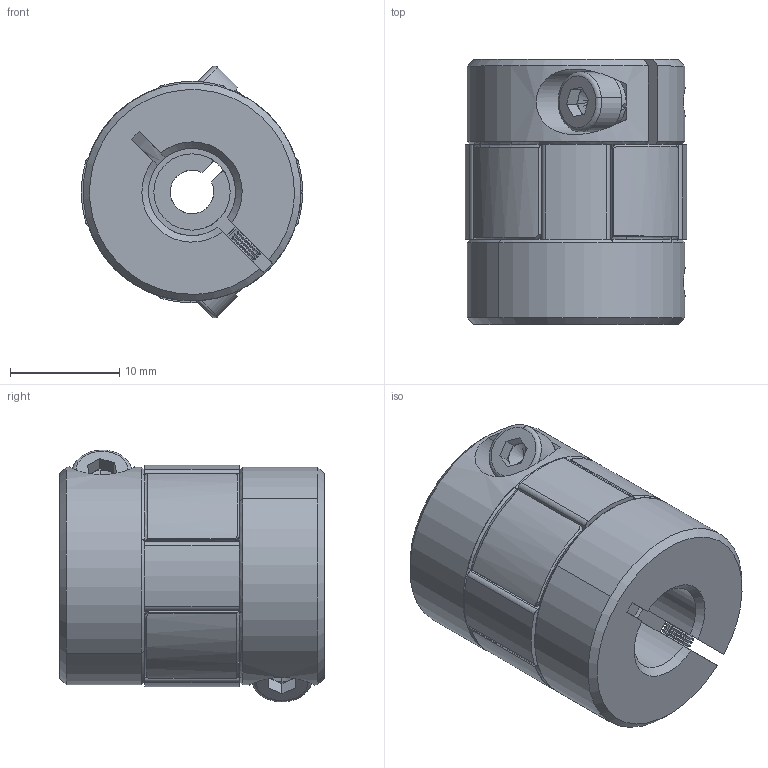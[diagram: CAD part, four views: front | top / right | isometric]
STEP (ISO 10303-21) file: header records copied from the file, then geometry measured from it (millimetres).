
FILE_DESCRIPTION (( 'STEP AP203' ), '1' );
FILE_NAME ('LF-B-D20L25-4-8.STEP', '2021-10-20T01:10:13', ( '' ), ( '' ), 'SwSTEP 2.0', 'SolidWorks 2018', '' );
FILE_SCHEMA (( 'CONFIG_CONTROL_DESIGN' ));
Length unit declared in the file: millimetre
Products named in the file (1): LF-B-D20L25-4-8
Bounding box: 20.31 x 24.3 x 23.09 mm (x, y, z)
Volume: 6545.1 mm3; surface area: 3584.9 mm2
Topology: 1 solids, 1 shells, 430 faces, 1072 edges, 635 vertices
Faces by surface type: cylinder 167, cone 158, plane 93, torus 12
Entity records: 13138 total; most frequent: CARTESIAN_POINT 2724, DIRECTION 2323, ORIENTED_EDGE 2136, EDGE_CURVE 1068, AXIS2_PLACEMENT_3D 956, VERTEX_POINT 635, CIRCLE 525, EDGE_LOOP 447
